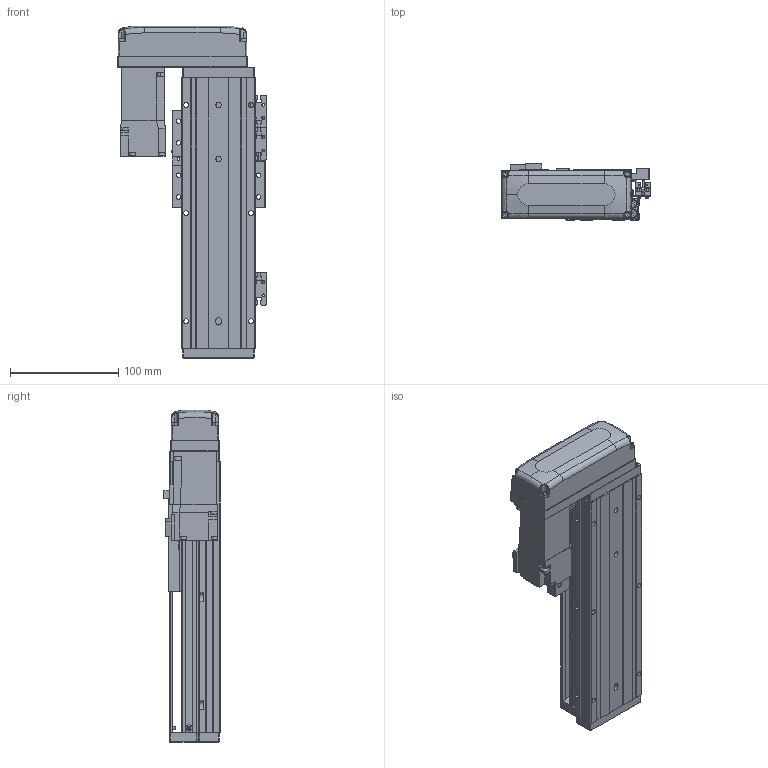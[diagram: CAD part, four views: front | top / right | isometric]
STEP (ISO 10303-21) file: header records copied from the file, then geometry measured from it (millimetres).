
FILE_DESCRIPTION (( 'STEP AP203' ), '1' );
FILE_NAME ('KTHAL60-100-BR-M10-C4L.step', '2022-03-19T08:43:32', ( '微软用户' ), ( '微软中国' ), 'SwSTEP 2.0', 'SolidWorks 2020', '' );
FILE_SCHEMA (( 'CONFIG_CONTROL_DESIGN' ));
Length unit declared in the file: millimetre
Products named in the file (18): KTHA60-001_250; CTHA60-017; CTHA60-015-2_CTHA60-015-2; KTHLA60-002; CTHA60-021; CTHA60-033; KTHA60-004; GBT 70.1-M4×16; GBT 70.1-M3×15; KTHA60-005; GBT77-2000M3-3; KTHAL60-100-BR-M10-C4L; GB¨uT 70.2-M3¡Á5_M3¡Á6; GBT 70.1-M3℅6; GBT 70.3-M3℅6; CTHA60-016; EE_SX911P_R; HG-KR13（三菱）
Assembly tree (51 placements, depth 2):
  KTHAL60-100-BR-M10-C4L
    KTHA60-001_250
    KTHLA60-002
    KTHA60-004
    KTHA60-005
    GB¨uT 70.2-M3¡Á5_M3¡Á6  x5
    GBT 70.3-M3℅6  x4
    EE_SX911P_R  x3
    CTHA60-017  x3
    CTHA60-021  x2
    GBT 70.1-M4×16  x10
    GBT77-2000M3-3  x6
    GBT 70.1-M3℅6  x6
    CTHA60-016
    HG-KR13（三菱）
    CTHA60-015-2_CTHA60-015-2
    CTHA60-033
    GBT 70.1-M3×15  x4
Bounding box: 137.82 x 52.3 x 307 mm (x, y, z)
Volume: 879574.9 mm3; surface area: 215761.5 mm2
Topology: 54 solids, 54 shells, 2215 faces, 5219 edges, 3197 vertices
Faces by surface type: plane 1264, cylinder 535, cone 278, torus 98, bspline 26, sphere 14
Entity records: 37409 total; most frequent: CARTESIAN_POINT 7112, DIRECTION 5803, ORIENTED_EDGE 5582, EDGE_CURVE 2791, AXIS2_PLACEMENT_3D 1955, VECTOR 1893, LINE 1893, VERTEX_POINT 1746
